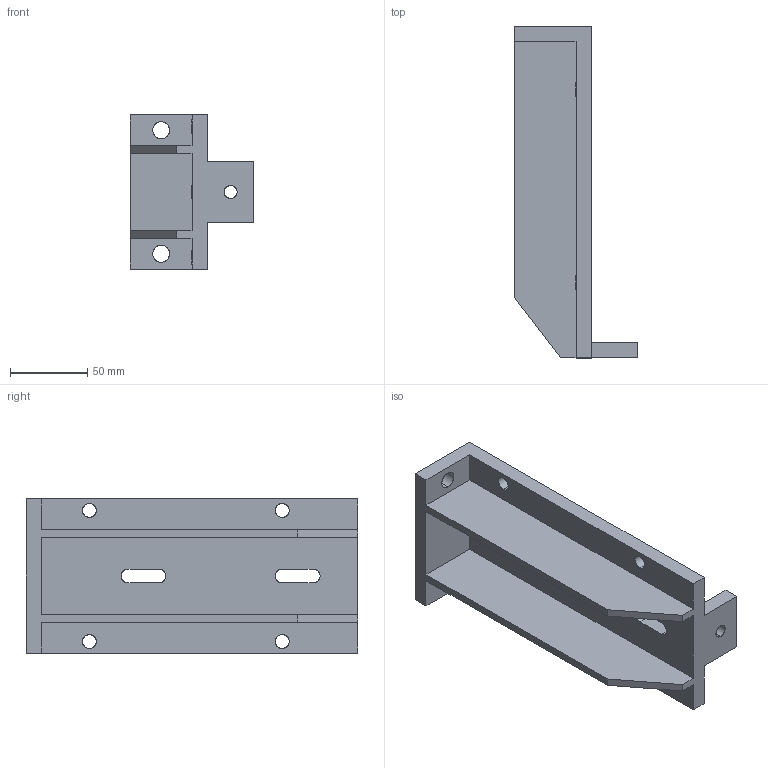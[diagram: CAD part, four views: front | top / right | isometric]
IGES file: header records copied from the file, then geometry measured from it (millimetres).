
Start section: SolidWorks IGES FILE using analytic representation for surfaces
Global section: file name: 38.IGS; native system: SolidWorks 2003 by SolidWorks Corporation; preprocessor: Version 5.3; author: sujet; date: 040213.102542; units: millimetre
Bounding box: 80 x 215 x 100 mm (x, y, z)
Surface area: 92839.2 mm2 (no closed solid volume)
Topology: 0 solids, 0 shells, 44 faces, 792 edges, 792 vertices
Faces by surface type: bspline 26, revolution 18
